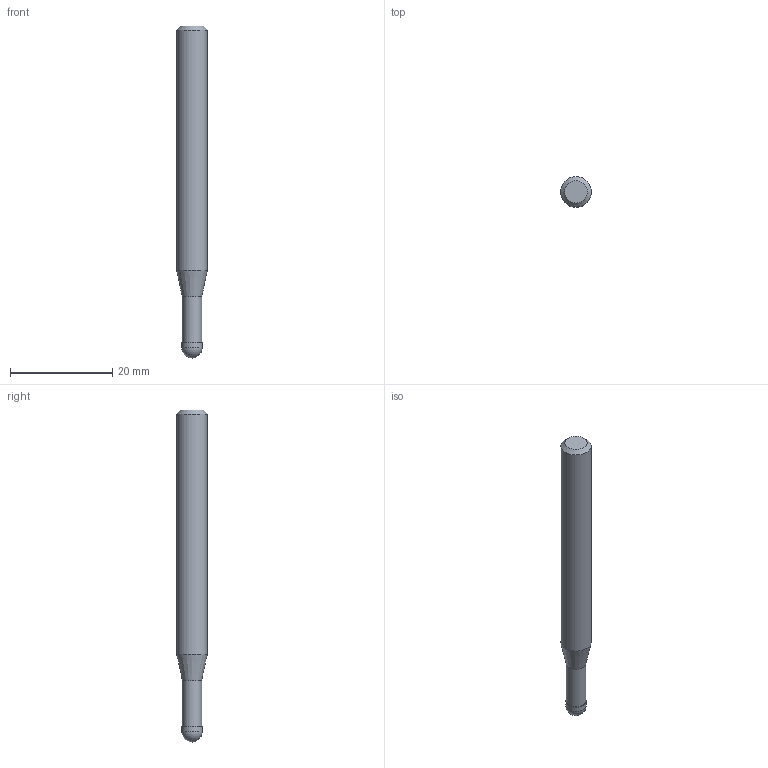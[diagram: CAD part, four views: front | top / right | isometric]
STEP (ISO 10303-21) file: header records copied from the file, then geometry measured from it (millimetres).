
FILE_DESCRIPTION((''),'2;1');
FILE_NAME('C:\Users\nsx150\AppData\Local\Temp\Mastercam 2021\3SYKECWX22\TEMP.step','2021-04-22T10:05:20',(''),(''),'STEP Write','Mastercam 2021 ... CNC Software, Inc.','');
FILE_SCHEMA(('AUTOMOTIVE_DESIGN'));
Length unit declared in the file: millimetre
Products named in the file (1): None
Bounding box: 6 x 6 x 65 mm (x, y, z)
Volume: 1577.3 mm3; surface area: 1170.6 mm2
Topology: 2 solids, 2 shells, 9 faces, 14 edges, 8 vertices
Faces by surface type: plane 3, cylinder 3, cone 2, sphere 1
Full cylindrical faces by diameter (mm): 3.8 x1, 4 x1, 6 x1
Entity records: 211 total; most frequent: DIRECTION 36, CARTESIAN_POINT 25, AXIS2_PLACEMENT_3D 18, ORIENTED_EDGE 14, EDGE_LOOP 14, STYLED_ITEM 12, ADVANCED_FACE 9, FACE_BOUND 8
